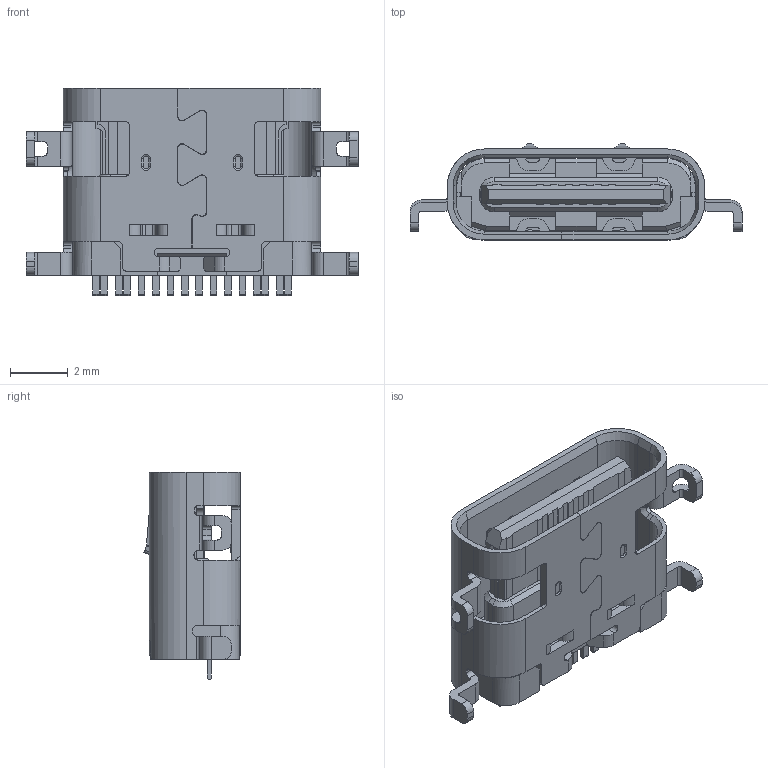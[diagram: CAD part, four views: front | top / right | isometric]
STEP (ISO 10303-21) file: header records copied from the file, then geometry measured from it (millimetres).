
FILE_DESCRIPTION((''),'2;1');
FILE_NAME('MCCFT-Z1K2_A0_','2025-08-15T',('PMT1 SFT'),(''),'PRO/ENGINEER BY PARAMETRIC TECHNOLOGY CORPORATION, 2011490','PRO/ENGINEER BY PARAMETRIC TECHNOLOGY CORPORATION, 2011490','');
FILE_SCHEMA(('CONFIG_CONTROL_DESIGN'));
Length unit declared in the file: millimetre
Products named in the file (1): MCCFT-Z1K2_A0_
Bounding box: 11.54 x 3.34 x 7.2 mm (x, y, z)
Volume: 94.9 mm3; surface area: 438.5 mm2
Topology: 1 solids, 1 shells, 738 faces, 2115 edges, 1378 vertices
Faces by surface type: plane 507, cylinder 200, cone 15, bspline 10, torus 6
Entity records: 24300 total; most frequent: CARTESIAN_POINT 4604, ORIENTED_EDGE 4230, DIRECTION 3979, EDGE_CURVE 2115, VECTOR 1655, LINE 1655, VERTEX_POINT 1378, AXIS2_PLACEMENT_3D 1162
